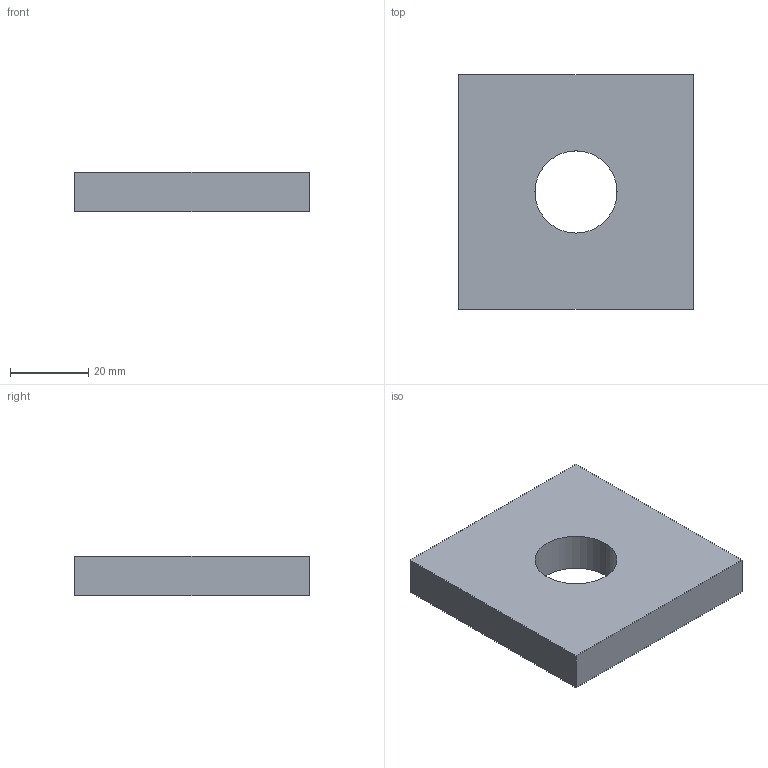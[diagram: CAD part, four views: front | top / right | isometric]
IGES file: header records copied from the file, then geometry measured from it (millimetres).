
Start section: 3D InterOp IGES (v. 2019 1.0.2), Spatial Corp. Copyright (c) 1999-2017.
Global section: file name: CP6010T21.igs; native system: Spatial Corp.; preprocessor: 3D InterOp GENERIC/IGES 3.0; author: Noname; organization: Noname; date: 20210216.091907; units: millimetre
Bounding box: 60 x 60 x 10 mm (x, y, z)
Surface area: 9567 mm2 (no closed solid volume)
Topology: 0 solids, 0 shells, 8 faces, 36 edges, 36 vertices
Faces by surface type: extrusion 6, revolution 2
